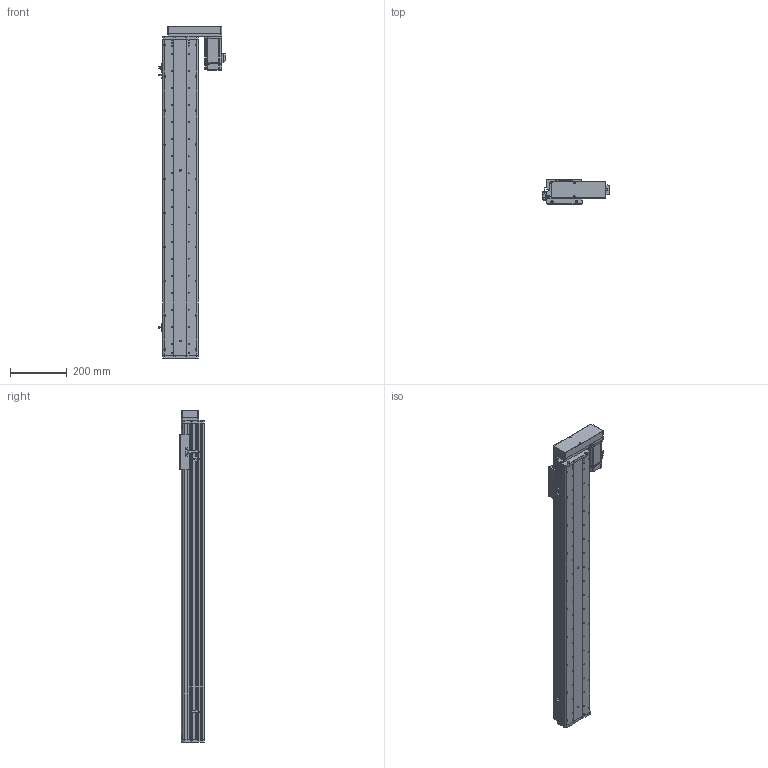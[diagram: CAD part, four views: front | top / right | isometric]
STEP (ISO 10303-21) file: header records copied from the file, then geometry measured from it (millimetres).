
FILE_DESCRIPTION (( 'STEP AP214' ), '1' );
FILE_NAME ('KSD125S-S900-MR-CM.STEP', '2017-10-21T09:04:09', ( '微软用户' ), ( '微软中国' ), 'SwSTEP 2.0', 'SolidWorks 2014', '' );
FILE_SCHEMA (( 'AUTOMOTIVE_DESIGN' ));
Length unit declared in the file: millimetre
Products named in the file (16): KSD125S-S900-MR-CM; HTPA30S3M150_A_H6_a佪裝蚚; HTPA30S3M150_A_H6_a萇儂蚚; 125宽马达安装板连板左右折丝杆; 125悵誘欶酘衵殏; KSD125S-900俴最佪裝滅鳥裔; KSD125S-900俴最佪裝菁啣; KSD125-賑雄釱1; MHMD042G1CA_2_03; 拸萇儂釱滅袉菜; 拸萇儂釱滅袉菜-1; 覜茼え68遵圉猾敕; U倰嫖萇假蚾璃; U倰嫖萇EEㄜSX672; ヶ傷啣-125遵耀郪; 125-帣傷啣1
Assembly tree (19 placements, depth 2):
  KSD125S-S900-MR-CM
    125-帣傷啣1
    ヶ傷啣-125遵耀郪
    U倰嫖萇EEㄜSX672  x3
    U倰嫖萇假蚾璃  x3
    覜茼え68遵圉猾敕
    拸萇儂釱滅袉菜-1
    拸萇儂釱滅袉菜
    MHMD042G1CA_2_03
    KSD125-賑雄釱1
    KSD125S-900俴最佪裝菁啣
    KSD125S-900俴最佪裝滅鳥裔
    125悵誘欶酘衵殏
    125宽马达安装板连板左右折丝杆
    HTPA30S3M150_A_H6_a萇儂蚚
    HTPA30S3M150_A_H6_a佪裝蚚
Bounding box: 234.2 x 86 x 1167.5 mm (x, y, z)
Volume: 3707623.1 mm3; surface area: 1255695.8 mm2
Topology: 18 solids, 21 shells, 2251 faces, 6531 edges, 4309 vertices
Faces by surface type: cylinder 1422, plane 688, cone 119, bspline 22
Entity records: 79661 total; most frequent: CARTESIAN_POINT 16165, DIRECTION 12429, ORIENTED_EDGE 11570, EDGE_CURVE 5863, AXIS2_PLACEMENT_3D 4815, VERTEX_POINT 3901, LINE 2799, VECTOR 2799
